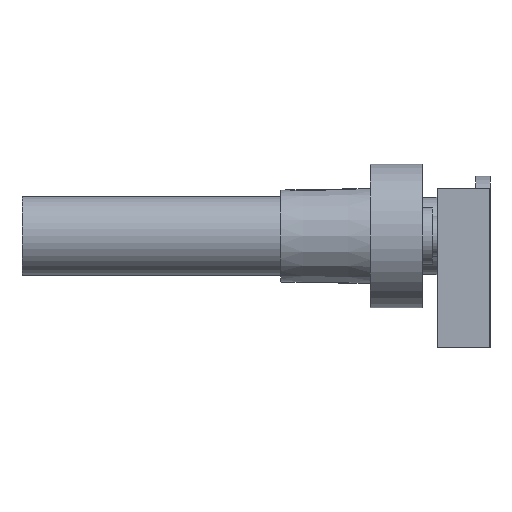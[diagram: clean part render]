
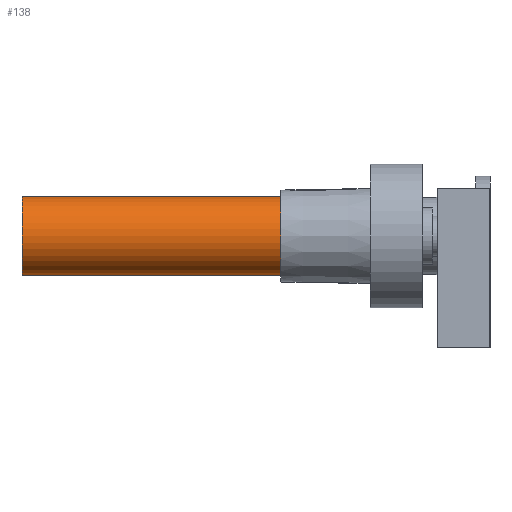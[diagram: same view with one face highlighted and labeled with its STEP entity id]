
A CAD part, left-side view. The second image highlights one B-rep face of the part: STEP entity #138.
In plain terms, the highlighted cylindrical face has radius 4.91 mm (diameter 9.82 mm), a full revolution.
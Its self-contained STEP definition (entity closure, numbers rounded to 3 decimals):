
#138 = ADVANCED_FACE( '', ( #270, #271 ), #272, .T. );
#270 = FACE_OUTER_BOUND( '', #440, .T. );
#271 = FACE_OUTER_BOUND( '', #441, .T. );
#272 = CYLINDRICAL_SURFACE( '', #442, 4.91 );
#440 = EDGE_LOOP( '', ( #622 ) );
#441 = EDGE_LOOP( '', ( #623 ) );
#442 = AXIS2_PLACEMENT_3D( '', #624, #625, #626 );
#622 = ORIENTED_EDGE( '', *, *, #894, .F. );
#623 = ORIENTED_EDGE( '', *, *, #895, .T. );
#624 = CARTESIAN_POINT( '', ( -16., 46.85, 0. ) );
#625 = DIRECTION( '', ( 0., -1., 0. ) );
#626 = DIRECTION( '', ( -1., 0., 0. ) );
#894 = EDGE_CURVE( '', #1015, #1015, #1016, .T. );
#895 = EDGE_CURVE( '', #1017, #1017, #1018, .T. );
#1015 = VERTEX_POINT( '', #1182 );
#1016 = CIRCLE( '', #1183, 4.91 );
#1017 = VERTEX_POINT( '', #1184 );
#1018 = CIRCLE( '', #1185, 4.91 );
#1182 = CARTESIAN_POINT( '', ( -20.91, 46.85, 0. ) );
#1183 = AXIS2_PLACEMENT_3D( '', #1350, #1351, #1352 );
#1184 = CARTESIAN_POINT( '', ( -20.91, 14.45, 0. ) );
#1185 = AXIS2_PLACEMENT_3D( '', #1353, #1354, #1355 );
#1350 = CARTESIAN_POINT( '', ( -16., 46.85, 0. ) );
#1351 = DIRECTION( '', ( 0., 1., 0. ) );
#1352 = DIRECTION( '', ( -1., 0., 0. ) );
#1353 = CARTESIAN_POINT( '', ( -16., 14.45, 0. ) );
#1354 = DIRECTION( '', ( 0., 1., 0. ) );
#1355 = DIRECTION( '', ( -1., 0., 0. ) );
